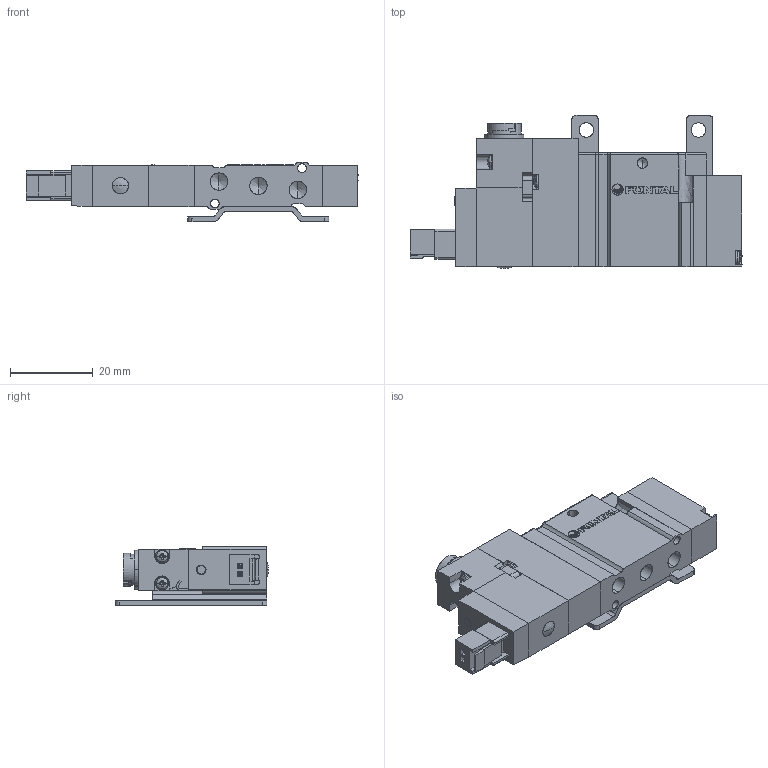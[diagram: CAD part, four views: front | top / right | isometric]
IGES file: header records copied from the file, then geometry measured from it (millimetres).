
Start section: SolidWorks IGES file using analytic representation for surfaces
Global section: file name: D:\Custom\3D繪製\ADEX\A05RS25\A05RS25#-BS-#-#-E.IGS,1; native system: 5HSolidWorks 2014; preprocessor: SolidWorks 2014; author: Chieh_Lu; date: 150725.204810; units: millimetre
Bounding box: 80 x 36.9 x 14.4 mm (x, y, z)
Surface area: 13957.4 mm2 (no closed solid volume)
Topology: 0 solids, 0 shells, 753 faces, 6526 edges, 6496 vertices
Faces by surface type: bspline 494, revolution 259
